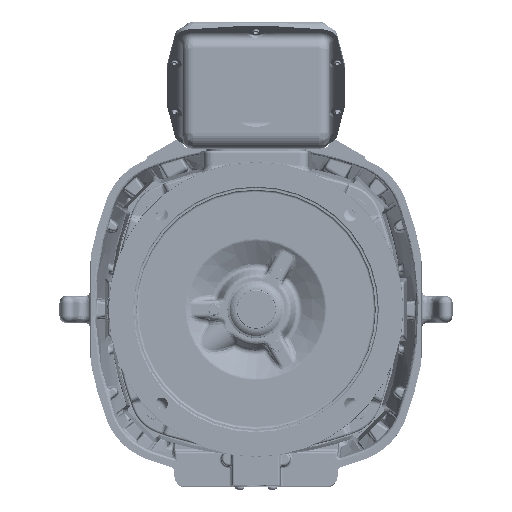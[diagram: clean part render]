
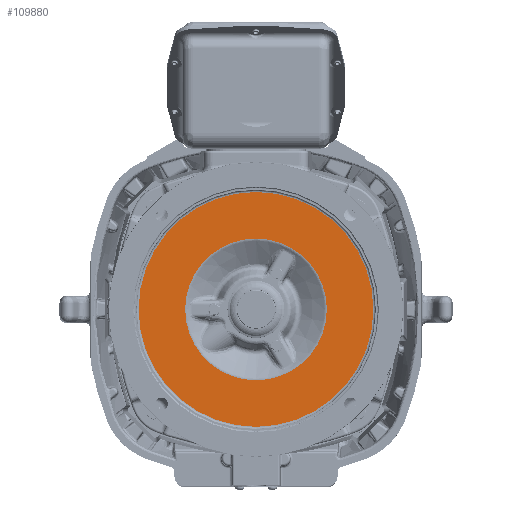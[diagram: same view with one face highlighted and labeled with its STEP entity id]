
A CAD part, front view. The second image highlights one B-rep face of the part: STEP entity #109880.
In plain terms, the highlighted planar face has unit normal (0, -1, 0) as drawn and (0, 0, 1) by its records, which use the part's own axes.
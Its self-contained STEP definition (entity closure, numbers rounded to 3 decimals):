
#90198=CARTESIAN_POINT('',(0.,0.,4.07));
#90199=DIRECTION('',(0.,0.,1.));
#90200=DIRECTION('',(0.,-1.,0.));
#90201=AXIS2_PLACEMENT_3D('',#90198,#90199,#90200);
#90203=CARTESIAN_POINT('',(0.,0.,4.07));
#90204=DIRECTION('',(0.,0.,1.));
#90205=DIRECTION('',(0.,1.,0.));
#90206=AXIS2_PLACEMENT_3D('',#90203,#90204,#90205);
#90208=CARTESIAN_POINT('',(0.,0.,4.07));
#90209=DIRECTION('',(0.,0.,-1.));
#90210=DIRECTION('',(0.,1.,0.));
#90211=AXIS2_PLACEMENT_3D('',#90208,#90209,#90210);
#90213=CARTESIAN_POINT('',(0.,0.,4.07));
#90214=DIRECTION('',(0.,0.,-1.));
#90215=DIRECTION('',(0.,-1.,0.));
#90216=AXIS2_PLACEMENT_3D('',#90213,#90214,#90215);
#104962=CARTESIAN_POINT('',(0.,-6.484,4.07));
#104963=CARTESIAN_POINT('',(0.,6.484,4.07));
#104964=VERTEX_POINT('',#104962);
#104965=VERTEX_POINT('',#104963);
#105076=CARTESIAN_POINT('',(0.,3.912,4.07));
#105077=CARTESIAN_POINT('',(0.,-3.912,4.07));
#105078=VERTEX_POINT('',#105076);
#105079=VERTEX_POINT('',#105077);
#109865=CARTESIAN_POINT('',(0.,0.,4.07));
#109866=DIRECTION('',(0.,0.,1.));
#109867=DIRECTION('',(0.,1.,0.));
#109868=AXIS2_PLACEMENT_3D('',#109865,#109866,#109867);
#109869=PLANE('',#109868);
#109870=ORIENTED_EDGE('',*,*,#109859,.F.);
#109871=ORIENTED_EDGE('',*,*,#109845,.F.);
#109872=EDGE_LOOP('',(#109870,#109871));
#109873=FACE_OUTER_BOUND('',#109872,.F.);
#109875=ORIENTED_EDGE('',*,*,#109874,.F.);
#109877=ORIENTED_EDGE('',*,*,#109876,.F.);
#109878=EDGE_LOOP('',(#109875,#109877));
#109879=FACE_BOUND('',#109878,.F.);
#109880=ADVANCED_FACE('',(#109873,#109879),#109869,.T.);
#90202=CIRCLE('',#90201,6.484);
#90207=CIRCLE('',#90206,6.484);
#90212=CIRCLE('',#90211,3.912);
#90217=CIRCLE('',#90216,3.912);
#109845=EDGE_CURVE('',#104965,#104964,#90207,.T.);
#109859=EDGE_CURVE('',#104964,#104965,#90202,.T.);
#109874=EDGE_CURVE('',#105078,#105079,#90212,.T.);
#109876=EDGE_CURVE('',#105079,#105078,#90217,.T.);
